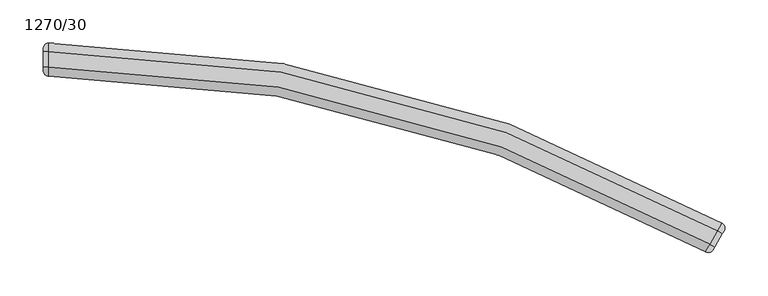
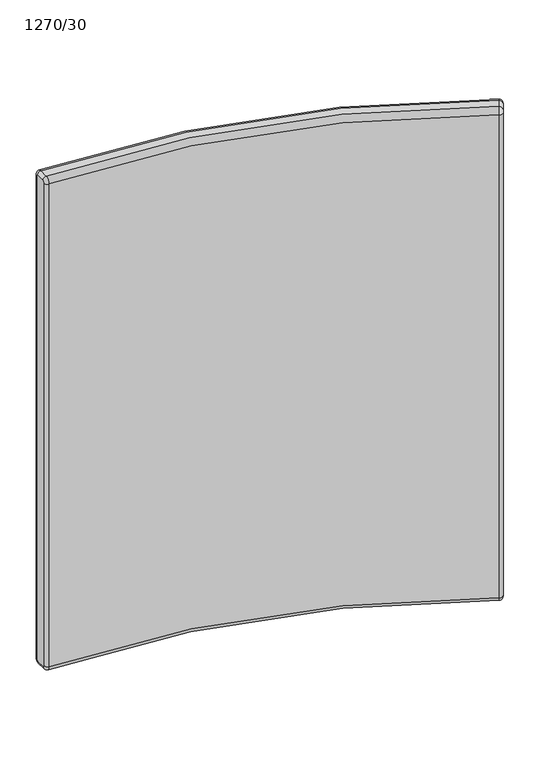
"""IFC4 building model written with IfcOpenShell, lengths in millimetres: furniture geometry, Laguna-Panel-Curve_Inside-ERG : 1270/30."""

from ifc_helpers import new_model, si_unit, point, frame, origin, place, context, project, spatial, polyline, circle_curve, ellipse_curve, trimmed, source, transform, mapped, element, save
from ifc_brep_helpers import plane_surface, cylinder_surface, revolved_surface, advanced_brep


def furniture_1270_30_a5e9e99b(model_context):
    return source(origin(), model_context, "Body", "AdvancedBrep", [
        advanced_brep(
        [(-4044.6111209, 1281.2423208, 1209.04), (-4046.9353822, 1289.9165821, 1209.04), (-4052.0153822, 1281.117764, 1219.2), (-4046.5161209, 1277.942764, 1212.85), (-4060.9186326, 1265.696882, 1219.2), (-4055.4193713, 1262.521882, 1212.85), (-4065.9986326, 1256.8980639, 1209.04), (-4057.3243713, 1259.2223252, 1209.04), (-4065.9986326, 1256.8980639, 213.36), (-4057.3243713, 1259.2223252, 213.36), (-4060.9186326, 1265.696882, 203.2), (-4055.4193713, 1262.521882, 209.55), (-4052.0153822, 1281.117764, 203.2), (-4046.5161209, 1277.942764, 209.55), (-4046.9353822, 1289.9165821, 213.36), (-4044.6111209, 1281.2423208, 213.36), (-4826.5553779, 1498.8151303, 1209.04), (-4826.5553779, 1488.6551303, 1219.2), (-4826.5553779, 1498.8151303, 213.36), (-4826.5553779, 1488.6551303, 203.2), (-4826.5553779, 1470.8486296, 203.2), (-4826.5553779, 1460.6886296, 213.36), (-4826.5553779, 1460.6886296, 1209.04), (-4826.5553779, 1470.8486296, 1219.2), (-4832.9053779, 1467.0386296, 1209.04), (-4832.9053779, 1470.8486296, 1212.85), (-4832.9053779, 1488.6551303, 1212.85), (-4832.9053779, 1492.4651303, 1209.04), (-4832.9053779, 1492.4651303, 213.36), (-4832.9053779, 1488.6551303, 209.55), (-4832.9053779, 1470.8486296, 209.55), (-4832.9053779, 1467.0386296, 213.36)],
        [
            (0, 1, circle_curve(frame((-4050.1103822, 1284.4173208, 1209.04), z_axis=(0.0, 0.0, 1.0), x_axis=(-0.5000000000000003, -0.8660254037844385, 0.0)), 6.35)),
            (1, 2, circle_curve(frame((-4052.0153822, 1281.117764, 1209.04), z_axis=(0.866025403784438, -0.5000000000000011, 0.0), x_axis=(0.5000000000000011, 0.866025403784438, 0.0)), 10.16)),
            (2, 3, circle_curve(frame((-4052.0153822, 1281.117764, 1212.85), z_axis=(0.5000000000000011, 0.866025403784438, 0.0), x_axis=(0.0, 0.0, -1.0)), 6.35)),
            (3, 0, circle_curve(frame((-4046.5161209, 1277.942764, 1209.04), z_axis=(-0.866025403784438, 0.5000000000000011, 0.0), x_axis=(0.5000000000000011, 0.866025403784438, 0.0)), 3.81)),
            (2, 4),
            (4, 5, circle_curve(frame((-4060.9186326, 1265.696882, 1212.85), z_axis=(0.500000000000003, 0.866025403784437, 0.0), x_axis=(0.0, 0.0, -1.0)), 6.35)),
            (5, 3),
            (4, 6, circle_curve(frame((-4060.9186326, 1265.696882, 1209.04), z_axis=(0.866025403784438, -0.5000000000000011, 0.0), x_axis=(0.0, 0.0, 1.0)), 10.16)),
            (6, 7, circle_curve(frame((-4062.8236326, 1262.3973252, 1209.04), z_axis=(0.0, 0.0, 1.0), x_axis=(0.500000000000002, 0.8660254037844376, 0.0)), 6.35)),
            (7, 5, circle_curve(frame((-4055.4193713, 1262.521882, 1209.04), z_axis=(-0.866025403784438, 0.5000000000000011, 0.0), x_axis=(0.0, 0.0, 1.0)), 3.81)),
            (6, 8),
            (8, 9, circle_curve(frame((-4062.8236326, 1262.3973252, 213.36), z_axis=(0.0, 0.0, 1.0), x_axis=(0.500000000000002, 0.8660254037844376, 0.0)), 6.35)),
            (9, 7),
            (8, 10, circle_curve(frame((-4060.9186326, 1265.696882, 213.36), z_axis=(0.8660254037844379, -0.5000000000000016, 0.0), x_axis=(-0.5000000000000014, -0.8660254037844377, 0.0)), 10.16)),
            (10, 11, circle_curve(frame((-4060.9186326, 1265.696882, 209.55), z_axis=(-0.5000000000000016, -0.8660254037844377, 0.0), x_axis=(0.0, 0.0, 0.9999999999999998)), 6.35)),
            (11, 9, circle_curve(frame((-4055.4193713, 1262.521882, 213.36), z_axis=(-0.8660254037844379, 0.5000000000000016, 0.0), x_axis=(-0.5000000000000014, -0.8660254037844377, 0.0)), 3.81)),
            (10, 12),
            (12, 13, circle_curve(frame((-4052.0153822, 1281.117764, 209.55), z_axis=(-0.4999999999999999, -0.8660254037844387, 0.0), x_axis=(0.0, 0.0, 1.0)), 6.35)),
            (13, 11),
            (12, 14, circle_curve(frame((-4052.0153822, 1281.117764, 213.36), z_axis=(0.8660254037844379, -0.5000000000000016, 0.0), x_axis=(0.0, 0.0, -1.0)), 10.16)),
            (14, 15, circle_curve(frame((-4050.1103822, 1284.4173208, 213.36), z_axis=(0.0, 0.0, -1.0), x_axis=(-0.500000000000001, -0.8660254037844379, 0.0)), 6.35)),
            (15, 13, circle_curve(frame((-4046.5161209, 1277.942764, 213.36), z_axis=(-0.8660254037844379, 0.5000000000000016, 0.0), x_axis=(0.0, 0.0, -1.0)), 3.81)),
            (0, 15),
            (14, 1),
            (1, 16, circle_curve(frame((-4826.5553779, -60.4248609, 1209.04), z_axis=(0.0, 0.0, 1.0), x_axis=(0.0, 1.0, 0.0)), 1559.2399912)),
            (16, 17, circle_curve(frame((-4826.5553779, 1488.6551303, 1209.04), z_axis=(1.0, 0.0, 0.0), x_axis=(0.0, 1.0, 0.0)), 10.16)),
            (17, 2, circle_curve(frame((-4826.5553779, -60.4248609, 1219.2), z_axis=(0.0, 0.0, -1.0), x_axis=(0.0, 1.0, 0.0)), 1549.0799912)),
            (14, 18, circle_curve(frame((-4826.5553779, -60.4248609, 213.36), z_axis=(0.0, 0.0, 1.0), x_axis=(0.0, 1.0, 0.0)), 1559.2399912)),
            (18, 16),
            (12, 19, circle_curve(frame((-4826.5553779, -60.4248609, 203.2), z_axis=(0.0, 0.0, 1.0), x_axis=(0.0, 1.0, 0.0)), 1549.0799912)),
            (19, 18, circle_curve(frame((-4826.5553779, 1488.6551303, 213.36), z_axis=(1.0, 0.0, 0.0), x_axis=(0.0, 1.0, 0.0)), 10.16)),
            (10, 20, circle_curve(frame((-4826.5553779, -60.4248609, 203.2), z_axis=(0.0, 0.0, 1.0), x_axis=(0.0, 1.0, 0.0)), 1531.2734905)),
            (20, 19),
            (8, 21, circle_curve(frame((-4826.5553779, -60.4248609, 213.36), z_axis=(0.0, 0.0, 1.0), x_axis=(0.0, 1.0, 0.0)), 1521.1134905)),
            (21, 20, circle_curve(frame((-4826.5553779, 1470.8486296, 213.36), z_axis=(1.0, 0.0, 0.0), x_axis=(0.0, 1.0, 0.0)), 10.16)),
            (6, 22, circle_curve(frame((-4826.5553779, -60.4248609, 1209.04), z_axis=(0.0, 0.0, 1.0), x_axis=(0.0, 1.0, 0.0)), 1521.1134905)),
            (22, 21),
            (4, 23, circle_curve(frame((-4826.5553779, -60.4248609, 1219.2), z_axis=(0.0, 0.0, 1.0), x_axis=(0.0, 1.0, 0.0)), 1531.2734905)),
            (23, 22, circle_curve(frame((-4826.5553779, 1470.8486296, 1209.04), z_axis=(1.0, 0.0, 0.0), x_axis=(0.0, 1.0, 0.0)), 10.16)),
            (17, 23),
            (24, 22, circle_curve(frame((-4826.5553779, 1467.0386296, 1209.04), z_axis=(0.0, 0.0, 1.0), x_axis=(0.0, 1.0, 0.0)), 6.35)),
            (23, 25, circle_curve(frame((-4826.5553779, 1470.8486296, 1212.85), z_axis=(0.0, -1.0, 0.0), x_axis=(0.0, 0.0, -1.0)), 6.35)),
            (25, 24, circle_curve(frame((-4832.9053779, 1470.8486296, 1209.04), z_axis=(1.0, 0.0, 0.0), x_axis=(0.0, -1.0, 0.0)), 3.81)),
            (17, 26, circle_curve(frame((-4826.5553779, 1488.6551303, 1212.85), z_axis=(0.0, -1.0, 0.0), x_axis=(0.0, 0.0, -1.0)), 6.35)),
            (26, 25),
            (16, 27, circle_curve(frame((-4826.5553779, 1492.4651303, 1209.04), z_axis=(0.0, 0.0, 1.0), x_axis=(0.0, -1.0, 0.0)), 6.35)),
            (27, 26, circle_curve(frame((-4832.9053779, 1488.6551303, 1209.04), z_axis=(1.0, 0.0, 0.0), x_axis=(0.0, 0.0, 1.0)), 3.81)),
            (18, 28, circle_curve(frame((-4826.5553779, 1492.4651303, 213.36), z_axis=(0.0, 0.0, 1.0), x_axis=(0.0, -1.0, 0.0)), 6.35)),
            (28, 27),
            (19, 29, circle_curve(frame((-4826.5553779, 1488.6551303, 209.55), z_axis=(0.0, 1.0, 0.0), x_axis=(0.0, 0.0, 1.0)), 6.35)),
            (29, 28, circle_curve(frame((-4832.9053779, 1488.6551303, 213.36), z_axis=(1.0, 0.0, 0.0), x_axis=(0.0, 1.0, 0.0)), 3.81)),
            (20, 30, circle_curve(frame((-4826.5553779, 1470.8486296, 209.55), z_axis=(0.0, 1.0, 0.0), x_axis=(0.0, 0.0, 1.0)), 6.35)),
            (30, 29),
            (21, 31, circle_curve(frame((-4826.5553779, 1467.0386296, 213.36), z_axis=(0.0, 0.0, -1.0), x_axis=(0.0, 1.0, 0.0)), 6.35)),
            (31, 30, circle_curve(frame((-4832.9053779, 1470.8486296, 213.36), z_axis=(1.0, 0.0, 0.0), x_axis=(0.0, 0.0, -1.0)), 3.81)),
            (24, 31),
        ],
        [
            revolved_surface(trimmed(ellipse_curve(frame((-4050.1103822, 1284.4173208, 1209.04), z_axis=(0.0, 0.0, -1.0), x_axis=(-0.5000000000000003, -0.8660254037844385, 0.0)), 6.35, 6.35), [point((-4046.9353822, 1289.9165821, 1209.04))], [point((-4044.6111209, 1281.2423208, 1209.04))], True, "CARTESIAN"), (-4052.0153822, 1281.117764, 1209.04), (0.866025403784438, -0.5000000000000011, 0.0)),
            cylinder_surface(frame((-4052.0153822, 1281.117764, 1212.85), z_axis=(0.500000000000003, 0.866025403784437, 0.0), x_axis=(0.0, 0.0, -1.0)), 6.35),
            revolved_surface(trimmed(ellipse_curve(frame((-4060.9186326, 1265.696882, 1212.85), z_axis=(0.500000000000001, 0.8660254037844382, 0.0), x_axis=(0.0, 0.0, -1.0)), 6.35, 6.35), [point((-4060.9186326, 1265.696882, 1219.2))], [point((-4055.4193713, 1262.521882, 1212.85))], True, "CARTESIAN"), (-4060.9186326, 1265.696882, 1209.04), (0.866025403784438, -0.5000000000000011, 0.0)),
            cylinder_surface(frame((-4062.8236326, 1262.3973252, 1209.04), z_axis=(0.0, 0.0, 1.0000000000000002), x_axis=(0.500000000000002, 0.8660254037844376, 0.0)), 6.35),
            revolved_surface(trimmed(ellipse_curve(frame((-4062.8236326, 1262.3973252, 213.36), z_axis=(0.0, 0.0, 0.9999999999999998), x_axis=(0.5000000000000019, 0.8660254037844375, 0.0)), 6.35, 6.35), [point((-4065.9986326, 1256.8980639, 213.36))], [point((-4057.3243713, 1259.2223252, 213.36))], True, "CARTESIAN"), (-4060.9186326, 1265.696882, 213.36), (0.8660254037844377, -0.5000000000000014, 0.0)),
            cylinder_surface(frame((-4060.9186326, 1265.696882, 209.55), z_axis=(-0.4999999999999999, -0.8660254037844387, 0.0), x_axis=(0.0, 0.0, 1.0)), 6.35),
            revolved_surface(trimmed(ellipse_curve(frame((-4052.0153822, 1281.117764, 209.55), z_axis=(-0.5000000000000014, -0.8660254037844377, 0.0), x_axis=(0.0, 0.0, 1.0)), 6.35, 6.35), [point((-4052.0153822, 1281.117764, 203.2))], [point((-4046.5161209, 1277.942764, 209.55))], True, "CARTESIAN"), (-4052.0153822, 1281.117764, 213.36), (0.8660254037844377, -0.5000000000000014, 0.0)),
            cylinder_surface(frame((-4050.1103822, 1284.4173208, 213.36), z_axis=(0.0, 0.0, -1.0000000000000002), x_axis=(-0.5000000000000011, -0.866025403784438, 0.0)), 6.35),
            plane_surface(frame((-4057.3243713, 1259.2223252, 213.36), z_axis=(0.866025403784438, -0.5000000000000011, 0.0), x_axis=(0.0, 0.0, -1.0))),
            revolved_surface(trimmed(ellipse_curve(frame((-4826.5553779, 1488.6551303, 1209.04), z_axis=(-1.0, 0.0, 0.0), x_axis=(0.0, 1.0, 0.0)), 10.16, 10.16), [point((-4826.5553779, 1488.6551303, 1219.2))], [point((-4826.5553779, 1498.8151303, 1209.04))], True, "CARTESIAN"), (-4826.5553779, -60.4248609, 0.0), (0.0, 0.0, -1.0)),
            cylinder_surface(frame((-4826.5553779, -60.4248609, 0.0), z_axis=(0.0, 0.0, -1.0), x_axis=(0.0, 1.0, 0.0)), 1559.2399912),
            revolved_surface(trimmed(ellipse_curve(frame((-4826.5553779, 1488.6551303, 213.36), z_axis=(-1.0, 0.0, 0.0), x_axis=(0.0, 1.0, 0.0)), 10.16, 10.16), [point((-4826.5553779, 1498.8151303, 213.36))], [point((-4826.5553779, 1488.6551303, 203.2))], True, "CARTESIAN"), (-4826.5553779, -60.4248609, 0.0), (0.0, 0.0, -1.0)),
            plane_surface(frame((-4826.5553779, -60.4248609, 203.2), z_axis=(0.0, 0.0, -1.0), x_axis=(0.0, 1.0, 0.0))),
            revolved_surface(trimmed(ellipse_curve(frame((-4826.5553779, 1470.8486296, 213.36), z_axis=(-1.0, 0.0, 0.0), x_axis=(0.0, 1.0, 0.0)), 10.16, 10.16), [point((-4826.5553779, 1470.8486296, 203.2))], [point((-4826.5553779, 1460.6886296, 213.36))], True, "CARTESIAN"), (-4826.5553779, -60.4248609, 0.0), (0.0, 0.0, -1.0)),
            revolved_surface(polyline([(-4826.5553779, 1460.6886295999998, 213.36), (-4826.5553779, 1460.6886295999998, 1209.04)]), (-4826.5553779, -60.4248609, 0.0), (0.0, 0.0, -1.0)),
            revolved_surface(trimmed(ellipse_curve(frame((-4826.5553779, 1470.8486296, 1209.04), z_axis=(-1.0, 0.0, 0.0), x_axis=(0.0, 1.0, 0.0)), 10.16, 10.16), [point((-4826.5553779, 1460.6886296, 1209.04))], [point((-4826.5553779, 1470.8486296, 1219.2))], True, "CARTESIAN"), (-4826.5553779, -60.4248609, 0.0), (0.0, 0.0, -1.0)),
            plane_surface(frame((-4826.5553779, -60.4248609, 1219.2), z_axis=(0.0, 0.0, 1.0), x_axis=(0.0, 1.0, 0.0))),
            revolved_surface(trimmed(ellipse_curve(frame((-4826.5553779, 1467.0386296, 1209.04), z_axis=(0.0, 0.0, -1.0), x_axis=(0.0, 1.0, 0.0)), 6.35, 6.35), [point((-4826.5553779, 1460.6886296, 1209.04))], [point((-4832.9053779, 1467.0386296, 1209.04))], True, "CARTESIAN"), (-4826.5553779, 1470.8486296, 1209.04), (-1.0, 0.0, 0.0)),
            cylinder_surface(frame((-4826.5553779, 1470.8486296, 1212.85), z_axis=(0.0, -1.0, 0.0), x_axis=(0.0, 0.0, -1.0)), 6.35),
            revolved_surface(trimmed(ellipse_curve(frame((-4826.5553779, 1488.6551303, 1212.85), z_axis=(0.0, -1.0, 0.0), x_axis=(0.0, 0.0, -1.0)), 6.35, 6.35), [point((-4826.5553779, 1488.6551303, 1219.2))], [point((-4832.9053779, 1488.6551303, 1212.85))], True, "CARTESIAN"), (-4826.5553779, 1488.6551303, 1209.04), (-1.0, 0.0, 0.0)),
            cylinder_surface(frame((-4826.5553779, 1492.4651303, 1209.04), z_axis=(0.0, 0.0, 1.0), x_axis=(0.0, -1.0, 0.0)), 6.35),
            revolved_surface(trimmed(ellipse_curve(frame((-4826.5553779, 1492.4651303, 213.36), z_axis=(0.0, 0.0, 1.0), x_axis=(0.0, -1.0, 0.0)), 6.35, 6.35), [point((-4826.5553779, 1498.8151303, 213.36))], [point((-4832.9053779, 1492.4651303, 213.36))], True, "CARTESIAN"), (-4826.5553779, 1488.6551303, 213.36), (-1.0, 0.0, 0.0)),
            cylinder_surface(frame((-4826.5553779, 1488.6551303, 209.55), z_axis=(0.0, 1.0, 0.0), x_axis=(0.0, 0.0, 1.0)), 6.35),
            revolved_surface(trimmed(ellipse_curve(frame((-4826.5553779, 1470.8486296, 209.55), z_axis=(0.0, 1.0, 0.0), x_axis=(0.0, 0.0, 1.0)), 6.35, 6.35), [point((-4826.5553779, 1470.8486296, 203.2))], [point((-4832.9053779, 1470.8486296, 209.55))], True, "CARTESIAN"), (-4826.5553779, 1470.8486296, 213.36), (-1.0, 0.0, 0.0)),
            cylinder_surface(frame((-4826.5553779, 1467.0386296, 213.36), z_axis=(0.0, 0.0, -1.0), x_axis=(0.0, 1.0, 0.0)), 6.35),
            plane_surface(frame((-4832.9053779, 1492.4651303, 213.36), z_axis=(-1.0, 0.0, 0.0), x_axis=(0.0, 0.0, -1.0))),
        ],
        [
            (0, [[1, 2, 3, 4]]),
            (1, [[-3, 5, 6, 7]]),
            (2, [[-6, 8, 9, 10]]),
            (3, [[-9, 11, 12, 13]]),
            (4, [[-12, 14, 15, 16]]),
            (5, [[-15, 17, 18, 19]]),
            (6, [[-18, 20, 21, 22]]),
            (7, [[-1, 23, -21, 24]]),
            (8, [[-4, -7, -10, -13, -16, -19, -22, -23]]),
            (9, [[25, 26, 27, -2]]),
            (10, [[-25, -24, 28, 29]]),
            (11, [[-28, -20, 30, 31]]),
            (12, [[-30, -17, 32, 33]]),
            (13, [[-32, -14, 34, 35]]),
            (14, [[-34, -11, 36, 37]]),
            (15, [[-36, -8, 38, 39]]),
            (16, [[-27, 40, -38, -5]]),
            (17, [[41, -39, 42, 43]]),
            (18, [[-42, -40, 44, 45]]),
            (19, [[-44, -26, 46, 47]]),
            (20, [[-46, -29, 48, 49]]),
            (21, [[-48, -31, 50, 51]]),
            (22, [[-50, -33, 52, 53]]),
            (23, [[-52, -35, 54, 55]]),
            (24, [[-41, 56, -54, -37]]),
            (25, [[-43, -45, -47, -49, -51, -53, -55, -56]]),
        ],
    ),
    ])


if __name__ == "__main__":
    model = new_model("IFC4")
    model_context = context("Model", 3, world=origin())
    ifc_project = project(units=[si_unit("LENGTHUNIT", "METRE", prefix="MILLI")], contexts=[model_context])
    site = spatial("IfcSite", under=ifc_project)
    building = spatial("IfcBuilding", under=site)
    placement = place(None, origin())
    furniture_1270_30_shape = furniture_1270_30_a5e9e99b(model_context)
    element("IfcFurniture", 1, ObjectType="Laguna-Panel-Curve_Inside-ERG : 1270/30", at=placement, inside=building, context=model_context, shape_type="MappedRepresentation", body=[
        mapped(furniture_1270_30_shape, transform((0.0, 0.0, 0.0), x_axis=(1.0, 0.0, 0.0), y_axis=(0.0, 1.0, 0.0), z_axis=(0.0, 0.0, 1.0))),
    ])
    save(model, "model.ifc")
